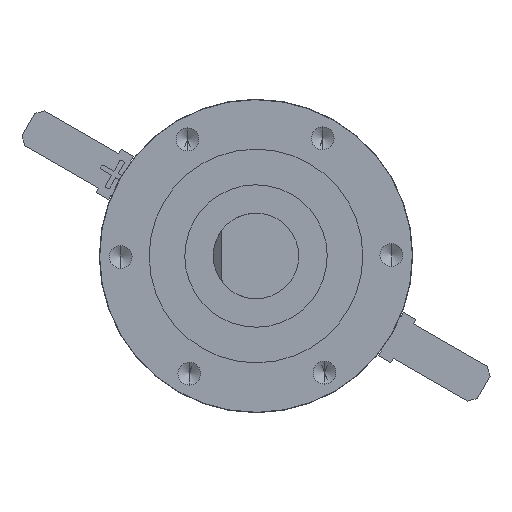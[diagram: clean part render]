
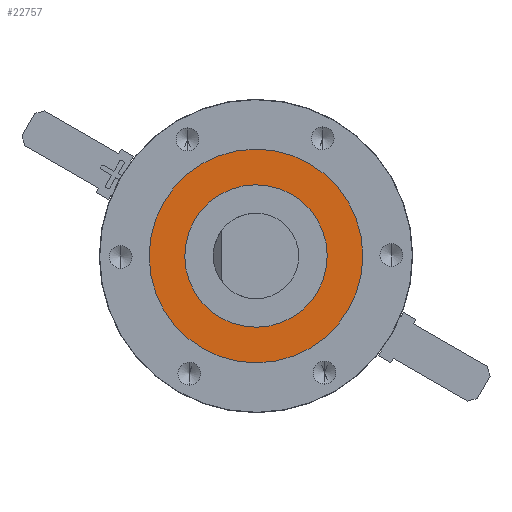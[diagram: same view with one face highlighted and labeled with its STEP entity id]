
A CAD part, left-side view. The second image highlights one B-rep face of the part: STEP entity #22757.
In plain terms, the highlighted planar face has unit normal (-1, 0, 0).
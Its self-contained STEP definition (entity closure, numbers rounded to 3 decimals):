
#645 = CARTESIAN_POINT ( 'NONE',  ( -2.1, 0., -7.5 ) ) ;
#2515 = FACE_BOUND ( 'NONE', #27023, .T. ) ;
#3573 = FACE_OUTER_BOUND ( 'NONE', #26438, .T. ) ;
#6499 = EDGE_CURVE ( 'NONE', #14456, #32038, #36695, .T. ) ;
#6644 = EDGE_CURVE ( 'NONE', #15425, #37125, #33207, .T. ) ;
#7714 = PLANE ( 'NONE',  #19612 ) ;
#8347 = DIRECTION ( 'NONE',  ( -1., 0., 0. ) ) ;
#9122 = DIRECTION ( 'NONE',  ( -1., 0., 0. ) ) ;
#9869 = DIRECTION ( 'NONE',  ( 1., 0., 0. ) ) ;
#10918 = DIRECTION ( 'NONE',  ( 0., 0., -1. ) ) ;
#11903 = ORIENTED_EDGE ( 'NONE', *, *, #19776, .F. ) ;
#14004 = CARTESIAN_POINT ( 'NONE',  ( -2.1, 0., 0. ) ) ;
#14456 = VERTEX_POINT ( 'NONE', #645 ) ;
#15425 = VERTEX_POINT ( 'NONE', #37836 ) ;
#15599 = ORIENTED_EDGE ( 'NONE', *, *, #32050, .F. ) ;
#16065 = CARTESIAN_POINT ( 'NONE',  ( -2.1, 0., 0. ) ) ;
#16410 = AXIS2_PLACEMENT_3D ( 'NONE', #27442, #8347, #30629 ) ;
#17505 = ORIENTED_EDGE ( 'NONE', *, *, #6644, .F. ) ;
#17764 = AXIS2_PLACEMENT_3D ( 'NONE', #16065, #38303, #19257 ) ;
#19257 = DIRECTION ( 'NONE',  ( 0., 0., -1. ) ) ;
#19612 = AXIS2_PLACEMENT_3D ( 'NONE', #14004, #29974, #10918 ) ;
#19776 = EDGE_CURVE ( 'NONE', #32038, #14456, #39421, .T. ) ;
#21520 = CARTESIAN_POINT ( 'NONE',  ( -2.1, 0., 7.5 ) ) ;
#22757 = ADVANCED_FACE ( 'NONE', ( #2515, #3573 ), #7714, .F. ) ;
#25023 = CARTESIAN_POINT ( 'NONE',  ( -2.1, 0., 5. ) ) ;
#26438 = EDGE_LOOP ( 'NONE', ( #27015, #11903 ) ) ;
#26504 = AXIS2_PLACEMENT_3D ( 'NONE', #28953, #9869, #32110 ) ;
#27015 = ORIENTED_EDGE ( 'NONE', *, *, #6499, .F. ) ;
#27023 = EDGE_LOOP ( 'NONE', ( #17505, #15599 ) ) ;
#27442 = CARTESIAN_POINT ( 'NONE',  ( -2.1, 0., 0. ) ) ;
#28195 = CARTESIAN_POINT ( 'NONE',  ( -2.1, 0., 0. ) ) ;
#28953 = CARTESIAN_POINT ( 'NONE',  ( -2.1, 0., 0. ) ) ;
#29974 = DIRECTION ( 'NONE',  ( 1., 0., 0. ) ) ;
#30629 = DIRECTION ( 'NONE',  ( 0., 0., -1. ) ) ;
#31377 = DIRECTION ( 'NONE',  ( 0., 0., -1. ) ) ;
#32038 = VERTEX_POINT ( 'NONE', #21520 ) ;
#32050 = EDGE_CURVE ( 'NONE', #37125, #15425, #38549, .T. ) ;
#32110 = DIRECTION ( 'NONE',  ( 0., 0., -1. ) ) ;
#33207 = CIRCLE ( 'NONE', #16410, 5. ) ;
#35367 = AXIS2_PLACEMENT_3D ( 'NONE', #28195, #9122, #31377 ) ;
#36695 = CIRCLE ( 'NONE', #17764, 7.5 ) ;
#37125 = VERTEX_POINT ( 'NONE', #25023 ) ;
#37836 = CARTESIAN_POINT ( 'NONE',  ( -2.1, 0., -5. ) ) ;
#38303 = DIRECTION ( 'NONE',  ( 1., 0., 0. ) ) ;
#38549 = CIRCLE ( 'NONE', #35367, 5. ) ;
#39421 = CIRCLE ( 'NONE', #26504, 7.5 ) ;
